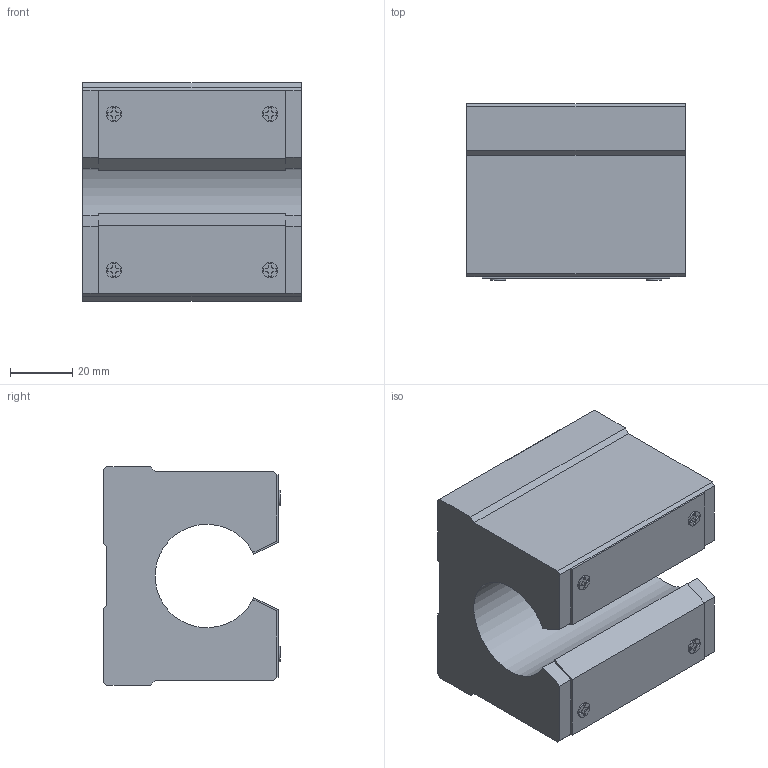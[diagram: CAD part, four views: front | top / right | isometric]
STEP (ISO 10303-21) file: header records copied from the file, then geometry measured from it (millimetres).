
FILE_DESCRIPTION( ( 'STEP AP203' ), '1' );
FILE_NAME( 'e:/temp/worker_73/temp/exporttempdir_5228_2102_7VcZx/format_0/SBR30UU.stp', '2021-06-07T03:11:00', ( 'License CC BY-ND 4.0' ), ( 'CADENAS' ), ' ', 'PARTsolutions', ' ' );
FILE_SCHEMA( ( 'CONFIG_CONTROL_DESIGN' ) );
Length unit declared in the file: millimetre
Products named in the file (1): _SBR30UU
Bounding box: 70 x 56.5 x 70 mm (x, y, z)
Volume: 192246.8 mm3; surface area: 30486.5 mm2
Topology: 1 solids, 1 shells, 124 faces, 322 edges, 212 vertices
Faces by surface type: plane 95, cylinder 25, cone 4
Full cylindrical faces by diameter (mm): 5 x4, 6.647 x4
Entity records: 3744 total; most frequent: CARTESIAN_POINT 647, ORIENTED_EDGE 620, DIRECTION 618, EDGE_CURVE 310, LINE 252, VECTOR 252, VERTEX_POINT 212, AXIS2_PLACEMENT_3D 183
